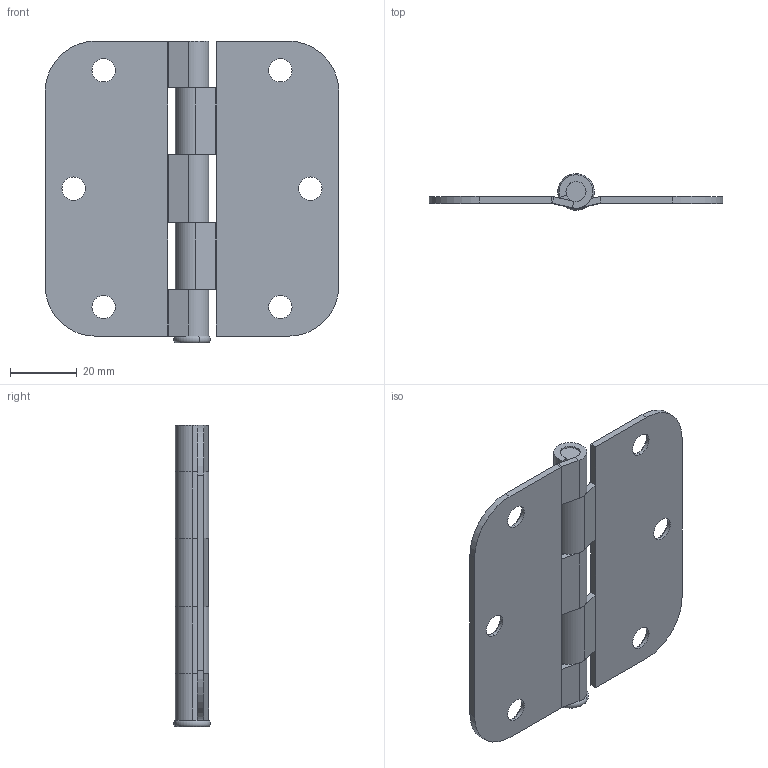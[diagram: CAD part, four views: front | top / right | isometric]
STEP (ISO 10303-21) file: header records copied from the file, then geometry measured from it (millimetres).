
FILE_DESCRIPTION (( 'STEP AP214' ), '1' );
FILE_NAME ('SK2-040-1.STEP', '2020-04-15T06:00:52', ( 'admin' ), ( 'Microsoft' ), 'SwSTEP 2.0', 'SolidWorks 2018', '' );
FILE_SCHEMA (( 'AUTOMOTIVE_DESIGN' ));
Length unit declared in the file: millimetre
Products named in the file (4): 2-040-1-F3; 2-040-1-F2; 2-040-1-F1; SK2-040-1
Assembly tree (3 placements, depth 2):
  SK2-040-1
    2-040-1-F1
    2-040-1-F2
    2-040-1-F3
Bounding box: 88 x 10.97 x 90.5 mm (x, y, z)
Volume: 19641.8 mm3; surface area: 20639 mm2
Topology: 3 solids, 3 shells, 119 faces, 296 edges, 184 vertices
Faces by surface type: cylinder 58, plane 47, cone 12, torus 2
Entity records: 3722 total; most frequent: DIRECTION 680, CARTESIAN_POINT 605, ORIENTED_EDGE 592, EDGE_CURVE 296, AXIS2_PLACEMENT_3D 259, VERTEX_POINT 184, VECTOR 162, LINE 162
